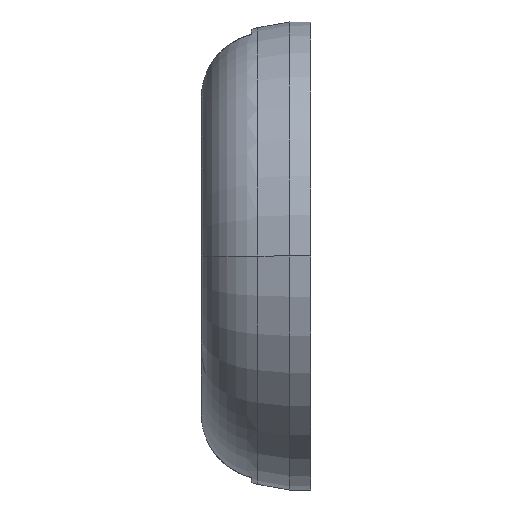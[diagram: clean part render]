
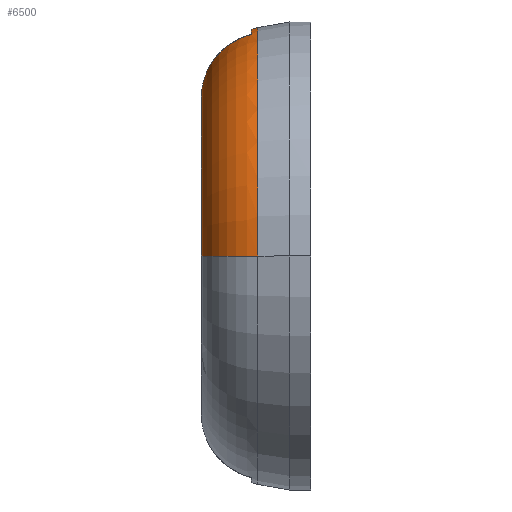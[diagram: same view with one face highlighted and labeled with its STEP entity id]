
A CAD part, left-side view. The second image highlights one B-rep face of the part: STEP entity #6500.
In plain terms, the highlighted toroidal (fillet/blend) face has major radius 18.963 mm and minor radius 8 mm.
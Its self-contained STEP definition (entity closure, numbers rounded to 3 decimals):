
#14 = CARTESIAN_POINT ( 'NONE',  ( -3.577, 6.985, 24.938 ) ) ;
#128 = CARTESIAN_POINT ( 'NONE',  ( -2.423, 9.614, 21.992 ) ) ;
#165 = DIRECTION ( 'NONE',  ( 0., -1., 0. ) ) ;
#280 = DIRECTION ( 'NONE',  ( -1., 0., 0. ) ) ;
#468 = EDGE_CURVE ( 'NONE', #5114, #5398, #9560, .T. ) ;
#601 = CARTESIAN_POINT ( 'NONE',  ( 1.7, 2.346, 0. ) ) ;
#958 = CARTESIAN_POINT ( 'NONE',  ( 20.663, 2.346, 0. ) ) ;
#1199 = CARTESIAN_POINT ( 'NONE',  ( -3.649, 6.696, 25.123 ) ) ;
#1306 = CARTESIAN_POINT ( 'NONE',  ( -3.334, 7.786, 24.323 ) ) ;
#1354 = ORIENTED_EDGE ( 'NONE', *, *, #8522, .T. ) ;
#1380 = DIRECTION ( 'NONE',  ( -1., 0., 0. ) ) ;
#1572 = ORIENTED_EDGE ( 'NONE', *, *, #2828, .T. ) ;
#1689 = AXIS2_PLACEMENT_3D ( 'NONE', #14787, #7150, #5619 ) ;
#1757 = CARTESIAN_POINT ( 'NONE',  ( 4.382, 10.334, 19.216 ) ) ;
#1984 = EDGE_CURVE ( 'NONE', #7870, #5114, #8803, .T. ) ;
#2188 = VERTEX_POINT ( 'NONE', #9946 ) ;
#2229 = CIRCLE ( 'NONE', #11498, 8. ) ;
#2385 = CARTESIAN_POINT ( 'NONE',  ( 6.149, 9.104, 22.828 ) ) ;
#2441 = CARTESIAN_POINT ( 'NONE',  ( 6.817, 7.537, 24.532 ) ) ;
#2562 = VERTEX_POINT ( 'NONE', #16003 ) ;
#2703 = DIRECTION ( 'NONE',  ( 1., 0., 0. ) ) ;
#2828 = EDGE_CURVE ( 'NONE', #6250, #3232, #2229, .T. ) ;
#2865 = EDGE_CURVE ( 'NONE', #12662, #10493, #14221, .T. ) ;
#2907 = EDGE_CURVE ( 'NONE', #6250, #7870, #8552, .T. ) ;
#3232 = VERTEX_POINT ( 'NONE', #7034 ) ;
#3624 = DIRECTION ( 'NONE',  ( 0., 0., 1. ) ) ;
#3871 = CARTESIAN_POINT ( 'NONE',  ( -3.154, 8.267, 23.864 ) ) ;
#3905 = EDGE_CURVE ( 'NONE', #2188, #2562, #11486, .T. ) ;
#3907 = CARTESIAN_POINT ( 'NONE',  ( 7.337, 5.165, 25.85 ) ) ;
#3915 = CARTESIAN_POINT ( 'NONE',  ( 5.349, 10.059, 20.769 ) ) ;
#4539 = ORIENTED_EDGE ( 'NONE', *, *, #6375, .F. ) ;
#4723 = ORIENTED_EDGE ( 'NONE', *, *, #468, .F. ) ;
#4900 = DIRECTION ( 'NONE',  ( 1., 0., 0. ) ) ;
#4945 = CARTESIAN_POINT ( 'NONE',  ( -1.949, 10.059, 20.769 ) ) ;
#5114 = VERTEX_POINT ( 'NONE', #12112 ) ;
#5139 = DIRECTION ( 'NONE',  ( 0., 0., -1. ) ) ;
#5151 = B_SPLINE_CURVE_WITH_KNOTS ( 'NONE', 3,
 ( #4945, #7576, #12676, #14111, #7523, #10175 ),
 .UNSPECIFIED., .F., .F.,
 ( 4, 2, 4 ),
 ( 0., 0.001, 0.002 ),
 .UNSPECIFIED. ) ;
#5168 = TOROIDAL_SURFACE ( 'NONE', #7156, 18.963, 8. ) ;
#5225 = CARTESIAN_POINT ( 'NONE',  ( 6.255, 8.912, 23.101 ) ) ;
#5398 = VERTEX_POINT ( 'NONE', #6301 ) ;
#5619 = DIRECTION ( 'NONE',  ( -1., 0., 0. ) ) ;
#5732 = AXIS2_PLACEMENT_3D ( 'NONE', #6580, #15709, #1380 ) ;
#6141 = B_SPLINE_CURVE_WITH_KNOTS ( 'NONE', 3,
 ( #10372, #12752, #6327, #14470, #10696, #3915 ),
 .UNSPECIFIED., .F., .F.,
 ( 4, 2, 4 ),
 ( 0., 0.001, 0.002 ),
 .UNSPECIFIED. ) ;
#6250 = VERTEX_POINT ( 'NONE', #14219 ) ;
#6301 = CARTESIAN_POINT ( 'NONE',  ( -0.983, 10.334, 19.216 ) ) ;
#6321 = CARTESIAN_POINT ( 'NONE',  ( 5.822, 9.615, 21.99 ) ) ;
#6327 = CARTESIAN_POINT ( 'NONE',  ( 4.782, 10.293, 19.69 ) ) ;
#6375 = EDGE_CURVE ( 'NONE', #16642, #3232, #6830, .T. ) ;
#6500 = ADVANCED_FACE ( 'NONE', ( #8856 ), #5168, .T. ) ;
#6580 = CARTESIAN_POINT ( 'NONE',  ( 1.7, 10.334, 0. ) ) ;
#6614 = CARTESIAN_POINT ( 'NONE',  ( -3.945, 5.172, 25.871 ) ) ;
#6672 = CARTESIAN_POINT ( 'NONE',  ( -1.949, 10.059, 20.769 ) ) ;
#6830 = CIRCLE ( 'NONE', #5732, 19.403 ) ;
#7034 = CARTESIAN_POINT ( 'NONE',  ( 21.103, 10.334, 0. ) ) ;
#7150 = DIRECTION ( 'NONE',  ( 0., 1., 0. ) ) ;
#7156 = AXIS2_PLACEMENT_3D ( 'NONE', #601, #9684, #13813 ) ;
#7232 = CIRCLE ( 'NONE', #8514, 26.667 ) ;
#7523 = CARTESIAN_POINT ( 'NONE',  ( -1.196, 10.32, 19.444 ) ) ;
#7576 = CARTESIAN_POINT ( 'NONE',  ( -1.84, 10.14, 20.487 ) ) ;
#7581 = CARTESIAN_POINT ( 'NONE',  ( 5.591, 9.877, 21.397 ) ) ;
#7688 = CARTESIAN_POINT ( 'NONE',  ( 7.415, 4.5, 26.048 ) ) ;
#7759 = CARTESIAN_POINT ( 'NONE',  ( 7.38, 4.835, 25.96 ) ) ;
#7778 = CARTESIAN_POINT ( 'NONE',  ( -4.015, 4.5, 26.048 ) ) ;
#7870 = VERTEX_POINT ( 'NONE', #10031 ) ;
#7950 = CARTESIAN_POINT ( 'NONE',  ( -2.857, 8.909, 23.105 ) ) ;
#8514 = AXIS2_PLACEMENT_3D ( 'NONE', #14578, #11954, #280 ) ;
#8522 = EDGE_CURVE ( 'NONE', #16642, #12662, #6141, .T. ) ;
#8542 = EDGE_CURVE ( 'NONE', #2188, #10493, #7232, .T. ) ;
#8552 = CIRCLE ( 'NONE', #11712, 26.841 ) ;
#8803 = CIRCLE ( 'NONE', #9932, 8. ) ;
#8856 = FACE_OUTER_BOUND ( 'NONE', #10019, .T. ) ;
#8876 = CARTESIAN_POINT ( 'NONE',  ( 6.457, 8.496, 23.616 ) ) ;
#8993 = CARTESIAN_POINT ( 'NONE',  ( -3.059, 8.492, 23.621 ) ) ;
#8996 = ORIENTED_EDGE ( 'NONE', *, *, #3905, .T. ) ;
#9560 = CIRCLE ( 'NONE', #1689, 19.403 ) ;
#9684 = DIRECTION ( 'NONE',  ( 0., 1., 0. ) ) ;
#9932 = AXIS2_PLACEMENT_3D ( 'NONE', #15587, #5139, #14268 ) ;
#9946 = CARTESIAN_POINT ( 'NONE',  ( -4.015, 4.5, 26.048 ) ) ;
#10019 = EDGE_LOOP ( 'NONE', ( #13509, #13966, #1572, #4539, #1354, #13773, #15014, #8996, #14423, #4723 ) ) ;
#10031 = CARTESIAN_POINT ( 'NONE',  ( -25.141, 3.735, 0. ) ) ;
#10175 = CARTESIAN_POINT ( 'NONE',  ( -0.983, 10.334, 19.216 ) ) ;
#10206 = CARTESIAN_POINT ( 'NONE',  ( 5.349, 10.059, 20.769 ) ) ;
#10328 = CARTESIAN_POINT ( 'NONE',  ( -2.192, 9.877, 21.398 ) ) ;
#10372 = CARTESIAN_POINT ( 'NONE',  ( 4.382, 10.334, 19.216 ) ) ;
#10493 = VERTEX_POINT ( 'NONE', #7688 ) ;
#10696 = CARTESIAN_POINT ( 'NONE',  ( 5.24, 10.14, 20.487 ) ) ;
#11486 = B_SPLINE_CURVE_WITH_KNOTS ( 'NONE', 3,
 ( #7778, #6614, #14429, #1199, #14, #15738, #1306, #3871, #8993, #7950, #16902, #128, #10328, #6672 ),
 .UNSPECIFIED., .F., .F.,
 ( 4, 2, 2, 2, 2, 2, 4 ),
 ( 0., 0.002, 0.003, 0.004, 0.005, 0.006, 0.008 ),
 .UNSPECIFIED. ) ;
#11498 = AXIS2_PLACEMENT_3D ( 'NONE', #958, #3624, #4900 ) ;
#11507 = CARTESIAN_POINT ( 'NONE',  ( 6.974, 6.993, 24.932 ) ) ;
#11712 = AXIS2_PLACEMENT_3D ( 'NONE', #14568, #165, #2703 ) ;
#11721 = CARTESIAN_POINT ( 'NONE',  ( 7.047, 6.705, 25.117 ) ) ;
#11954 = DIRECTION ( 'NONE',  ( 0., 1., 0. ) ) ;
#12112 = CARTESIAN_POINT ( 'NONE',  ( -17.703, 10.334, 0. ) ) ;
#12662 = VERTEX_POINT ( 'NONE', #10206 ) ;
#12676 = CARTESIAN_POINT ( 'NONE',  ( -1.707, 10.202, 20.216 ) ) ;
#12752 = CARTESIAN_POINT ( 'NONE',  ( 4.596, 10.32, 19.444 ) ) ;
#12787 = CARTESIAN_POINT ( 'NONE',  ( 7.235, 5.803, 25.594 ) ) ;
#12969 = CARTESIAN_POINT ( 'NONE',  ( 5.349, 10.059, 20.769 ) ) ;
#13019 = CARTESIAN_POINT ( 'NONE',  ( 7.415, 4.5, 26.048 ) ) ;
#13509 = ORIENTED_EDGE ( 'NONE', *, *, #1984, .F. ) ;
#13773 = ORIENTED_EDGE ( 'NONE', *, *, #2865, .T. ) ;
#13813 = DIRECTION ( 'NONE',  ( 1., 0., 0. ) ) ;
#13966 = ORIENTED_EDGE ( 'NONE', *, *, #2907, .F. ) ;
#14111 = CARTESIAN_POINT ( 'NONE',  ( -1.385, 10.292, 19.695 ) ) ;
#14219 = CARTESIAN_POINT ( 'NONE',  ( 28.541, 3.735, 0. ) ) ;
#14221 = B_SPLINE_CURVE_WITH_KNOTS ( 'NONE', 3,
 ( #12969, #7581, #6321, #2385, #5225, #8876, #14292, #15388, #2441, #11507, #11721, #16816, #12787, #3907, #7759, #13019 ),
 .UNSPECIFIED., .F., .F.,
 ( 4, 2, 2, 2, 2, 2, 2, 4 ),
 ( 0., 0.002, 0.003, 0.004, 0.005, 0.006, 0.007, 0.008 ),
 .UNSPECIFIED. ) ;
#14268 = DIRECTION ( 'NONE',  ( -1., 0., 0. ) ) ;
#14292 = CARTESIAN_POINT ( 'NONE',  ( 6.552, 8.272, 23.86 ) ) ;
#14423 = ORIENTED_EDGE ( 'NONE', *, *, #14877, .T. ) ;
#14429 = CARTESIAN_POINT ( 'NONE',  ( -3.844, 5.806, 25.616 ) ) ;
#14470 = CARTESIAN_POINT ( 'NONE',  ( 5.104, 10.203, 20.211 ) ) ;
#14568 = CARTESIAN_POINT ( 'NONE',  ( 1.7, 3.735, 0. ) ) ;
#14578 = CARTESIAN_POINT ( 'NONE',  ( 1.7, 4.5, 0. ) ) ;
#14787 = CARTESIAN_POINT ( 'NONE',  ( 1.7, 10.334, 0. ) ) ;
#14877 = EDGE_CURVE ( 'NONE', #2562, #5398, #5151, .T. ) ;
#15014 = ORIENTED_EDGE ( 'NONE', *, *, #8542, .F. ) ;
#15388 = CARTESIAN_POINT ( 'NONE',  ( 6.732, 7.792, 24.317 ) ) ;
#15587 = CARTESIAN_POINT ( 'NONE',  ( -17.263, 2.346, 0. ) ) ;
#15709 = DIRECTION ( 'NONE',  ( 0., 1., 0. ) ) ;
#15738 = CARTESIAN_POINT ( 'NONE',  ( -3.419, 7.53, 24.538 ) ) ;
#16003 = CARTESIAN_POINT ( 'NONE',  ( -1.949, 10.059, 20.769 ) ) ;
#16642 = VERTEX_POINT ( 'NONE', #1757 ) ;
#16816 = CARTESIAN_POINT ( 'NONE',  ( 7.177, 6.111, 25.447 ) ) ;
#16902 = CARTESIAN_POINT ( 'NONE',  ( -2.75, 9.102, 22.832 ) ) ;
